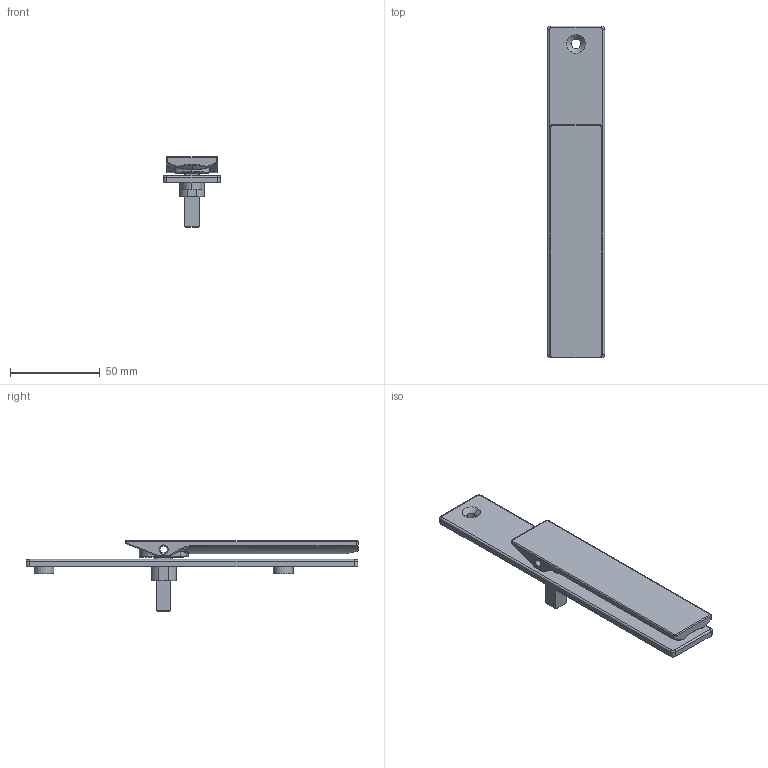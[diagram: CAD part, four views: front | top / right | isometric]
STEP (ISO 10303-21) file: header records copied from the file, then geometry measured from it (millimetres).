
FILE_DESCRIPTION (( 'STEP AP203' ), '1' );
FILE_NAME ('TPL-H-001-C 22Apr2026.STEP', '2026-04-22T03:52:37', ( '' ), ( '' ), 'SwSTEP 2.0', 'SolidWorks 2023', '' );
FILE_SCHEMA (( 'CONFIG_CONTROL_DESIGN' ));
Length unit declared in the file: millimetre
Products named in the file (6): Copy of LKC-586 Spindle square 8mm with M4 hole - simplified^TPGen2 handle non-keyed SS - simplified_25mm; Copy of LKC-585 Rotator body zinc - simplified^TPGen2 handle non-keyed SS - simplified; Copy of LKC-584 Pivot body zinc - simplified^TPGen2 handle non-keyed SS - simplified; Copy of LKC-506 Swing handle SS - simplified^TPGen2 handle non-keyed SS - simplified; Copy of Escutcheon plate unkeyed 185mm - simplified^TPGen2 handle non-keyed SS - simplified; TPL-H-001-C 22Apr2026
Assembly tree (5 placements, depth 2):
  TPL-H-001-C 22Apr2026
    Copy of Escutcheon plate unkeyed 185mm - simplified^TPGen2 handle non-keyed SS - simplified
    Copy of LKC-586 Spindle square 8mm with M4 hole - simplified^TPGen2 handle non-keyed SS - simplified_25mm
    Copy of LKC-584 Pivot body zinc - simplified^TPGen2 handle non-keyed SS - simplified
    Copy of LKC-585 Rotator body zinc - simplified^TPGen2 handle non-keyed SS - simplified
    Copy of LKC-506 Swing handle SS - simplified^TPGen2 handle non-keyed SS - simplified
Bounding box: 32 x 185.25 x 39.55 mm (x, y, z)
Volume: 48105.9 mm3; surface area: 27284.3 mm2
Topology: 5 solids, 5 shells, 285 faces, 678 edges, 408 vertices
Faces by surface type: cylinder 105, plane 78, bspline 44, torus 36, cone 20, sphere 2
Entity records: 9836 total; most frequent: CARTESIAN_POINT 2865, ORIENTED_EDGE 1352, DIRECTION 1333, EDGE_CURVE 676, AXIS2_PLACEMENT_3D 528, VERTEX_POINT 408, EDGE_LOOP 314, FACE_OUTER_BOUND 285
